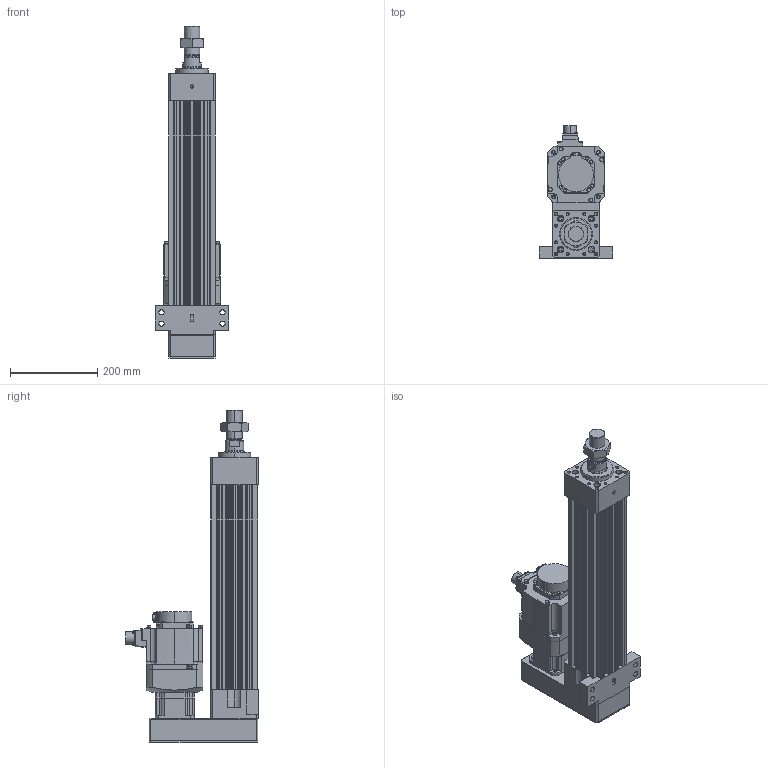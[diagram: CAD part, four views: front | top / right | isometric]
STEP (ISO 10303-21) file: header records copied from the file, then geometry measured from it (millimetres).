
FILE_DESCRIPTION (( 'STEP AP203' ), '1' );
FILE_NAME ('HES110NS(HS)-P300-W010G00-M-FFC.STEP', '2023-01-26T10:06:42', ( 'tms' ), ( '' ), 'SwSTEP 2.0', 'SolidWorks 2013', '' );
FILE_SCHEMA (( 'CONFIG_CONTROL_DESIGN' ));
Length unit declared in the file: millimetre
Products named in the file (8): HES110NS(HS)-P300-W010G00-M-FFC; HES110 ROD M ST300; P0401301004; HES110-P300-G090-FFC; M36X1.5P; AB090-003[HG-SR102B]; AB0901; HG-SR102
Assembly tree (7 placements, depth 3):
  HES110NS(HS)-P300-W010G00-M-FFC
    HES110-P300-G090-FFC
    HES110 ROD M ST300
    M36X1.5P
    AB090-003[HG-SR102B]
      AB0901
      P0401301004
    HG-SR102
Bounding box: 170 x 304.99 x 763 mm (x, y, z)
Volume: 7412752.6 mm3; surface area: 926376.8 mm2
Topology: 4 solids, 11 shells, 1111 faces, 2835 edges, 1826 vertices
Faces by surface type: cylinder 519, plane 486, cone 94, bspline 8, torus 4
Entity records: 35472 total; most frequent: CARTESIAN_POINT 6938, DIRECTION 6110, ORIENTED_EDGE 5574, EDGE_CURVE 2797, AXIS2_PLACEMENT_3D 2269, VERTEX_POINT 1826, LINE 1572, VECTOR 1572
